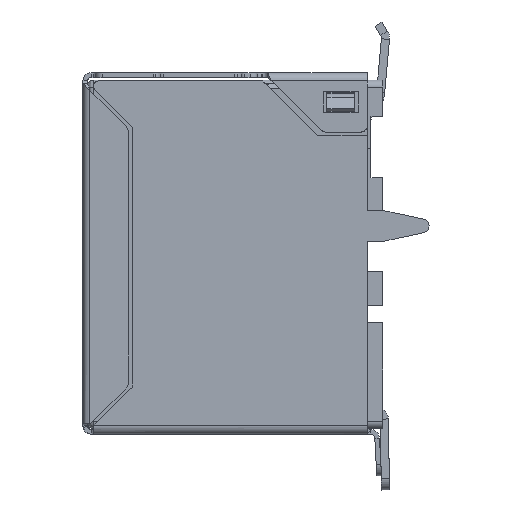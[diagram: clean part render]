
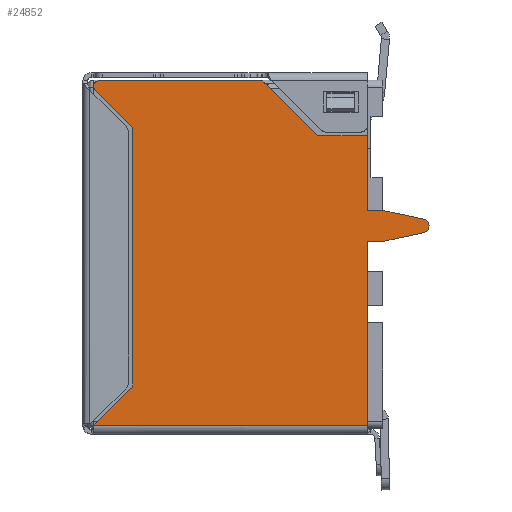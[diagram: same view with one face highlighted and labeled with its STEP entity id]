
A CAD part, left-side view. The second image highlights one B-rep face of the part: STEP entity #24852.
In plain terms, the highlighted planar face has unit normal (-1, 0, 0).
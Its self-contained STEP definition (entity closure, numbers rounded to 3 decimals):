
#4529=DIRECTION('',(0.,1.,0.));
#4530=VECTOR('',#4529,7.088);
#4531=CARTESIAN_POINT('',(-7.925,-7.55,
14.96));
#4532=LINE('',#4531,#4530);
#4537=DIRECTION('',(0.,0.,-1.));
#4538=VECTOR('',#4537,3.24);
#4539=CARTESIAN_POINT('',(-7.925,-12.05,12.61));
#4540=LINE('',#4539,#4538);
#4541=DIRECTION('',(0.,-1.,0.));
#4542=VECTOR('',#4541,0.75);
#4543=CARTESIAN_POINT('',(-7.925,-12.05,9.37));
#4544=LINE('',#4543,#4542);
#4545=DIRECTION('',(0.,-0.978,-0.21));
#4546=VECTOR('',#4545,1.701);
#4547=CARTESIAN_POINT('',(-7.925,-12.8,9.37));
#4548=LINE('',#4547,#4546);
#4549=CARTESIAN_POINT('',(-7.925,-14.4,8.72));
#4550=DIRECTION('',(1.,0.,0.));
#4551=DIRECTION('',(0.,-0.21,0.978));
#4552=AXIS2_PLACEMENT_3D('',#4549,#4550,#4551);
#4554=DIRECTION('',(0.,0.978,-0.21));
#4555=VECTOR('',#4554,1.701);
#4556=CARTESIAN_POINT('',(-7.925,-14.463,8.427));
#4557=LINE('',#4556,#4555);
#4558=DIRECTION('',(0.,1.,0.));
#4559=VECTOR('',#4558,0.75);
#4560=CARTESIAN_POINT('',(-7.925,-12.8,8.07));
#4561=LINE('',#4560,#4559);
#4562=DIRECTION('',(0.,0.,-1.));
#4563=VECTOR('',#4562,7.96);
#4564=CARTESIAN_POINT('',(-7.925,-12.05,8.07));
#4565=LINE('',#4564,#4563);
#4566=CARTESIAN_POINT('',(-7.925,-0.45,0.007));
#4567=DIRECTION('',(1.,0.,0.));
#4568=DIRECTION('',(0.,0.858,0.514));
#4569=AXIS2_PLACEMENT_3D('',#4566,#4567,#4568);
#4571=DIRECTION('',(0.,-0.707,0.707));
#4572=VECTOR('',#4571,2.197);
#4573=CARTESIAN_POINT('',(-7.925,-0.309,0.149));
#4574=LINE('',#4573,#4572);
#4575=CARTESIAN_POINT('',(-7.925,-1.65,1.914));
#4576=DIRECTION('',(-1.,0.,0.));
#4577=DIRECTION('',(0.,-0.707,-0.707));
#4578=AXIS2_PLACEMENT_3D('',#4575,#4576,#4577);
#4580=CARTESIAN_POINT('',(-7.925,-1.65,12.836));
#4581=DIRECTION('',(-1.,0.,0.));
#4582=DIRECTION('',(0.,-1.,0.));
#4583=AXIS2_PLACEMENT_3D('',#4580,#4581,#4582);
#4585=DIRECTION('',(0.,0.707,0.707));
#4586=VECTOR('',#4585,2.192);
#4587=CARTESIAN_POINT('',(-7.925,-1.862,13.048));
#4588=LINE('',#4587,#4586);
#4589=CARTESIAN_POINT('',(-7.925,-0.462,14.748));
#4590=DIRECTION('',(1.,0.,0.));
#4591=DIRECTION('',(0.,0.707,-0.707));
#4592=AXIS2_PLACEMENT_3D('',#4589,#4590,#4591);
#4594=DIRECTION('',(0.,-0.707,-0.707));
#4595=VECTOR('',#4594,3.323);
#4596=CARTESIAN_POINT('',(-7.925,-7.55,
14.96));
#4597=LINE('',#4596,#4595);
#4598=DIRECTION('',(0.,-1.,0.));
#4599=VECTOR('',#4598,2.15);
#4600=CARTESIAN_POINT('',(-7.925,-9.9,12.61));
#4601=LINE('',#4600,#4599);
#4878=DIRECTION('',(0.,0.,-1.));
#4879=VECTOR('',#4878,10.921);
#4880=CARTESIAN_POINT('',(-7.925,-1.95,12.836));
#4881=LINE('',#4880,#4879);
#4920=DIRECTION('',(0.,-1.,0.));
#4921=VECTOR('',#4920,11.772);
#4922=CARTESIAN_POINT('',(-7.925,-0.278,0.11));
#4923=LINE('',#4922,#4921);
#15833=CARTESIAN_POINT('',(-7.925,-12.05,0.11));
#15834=VERTEX_POINT('',#15833);
#15888=CARTESIAN_POINT('',(-7.925,-12.05,12.61));
#15889=VERTEX_POINT('',#15888);
#15890=CARTESIAN_POINT('',(-7.925,-9.9,12.61));
#15891=VERTEX_POINT('',#15890);
#15892=CARTESIAN_POINT('',(-7.925,-0.278,0.11));
#15893=CARTESIAN_POINT('',(-7.925,-0.309,0.149));
#15894=VERTEX_POINT('',#15892);
#15895=VERTEX_POINT('',#15893);
#15896=CARTESIAN_POINT('',(-7.925,-1.862,1.702));
#15897=VERTEX_POINT('',#15896);
#15898=CARTESIAN_POINT('',(-7.925,-1.95,1.914));
#15899=VERTEX_POINT('',#15898);
#15900=CARTESIAN_POINT('',(-7.925,-1.95,12.836));
#15901=VERTEX_POINT('',#15900);
#15902=CARTESIAN_POINT('',(-7.925,-1.862,13.048));
#15903=VERTEX_POINT('',#15902);
#15904=CARTESIAN_POINT('',(-7.925,-0.312,14.598));
#15905=VERTEX_POINT('',#15904);
#15906=CARTESIAN_POINT('',(-7.925,-0.462,14.96));
#15907=VERTEX_POINT('',#15906);
#15908=CARTESIAN_POINT('',(-7.925,-7.55,
14.96));
#15909=VERTEX_POINT('',#15908);
#18356=CARTESIAN_POINT('',(-7.925,-14.463,8.427));
#18357=CARTESIAN_POINT('',(-7.925,-12.8,8.07));
#18358=VERTEX_POINT('',#18356);
#18359=VERTEX_POINT('',#18357);
#18360=CARTESIAN_POINT('',(-7.925,-12.8,9.37));
#18361=CARTESIAN_POINT('',(-7.925,-14.463,9.013));
#18362=VERTEX_POINT('',#18360);
#18363=VERTEX_POINT('',#18361);
#18372=CARTESIAN_POINT('',(-7.925,-12.05,8.07));
#18373=VERTEX_POINT('',#18372);
#18374=CARTESIAN_POINT('',(-7.925,-12.05,9.37));
#18375=VERTEX_POINT('',#18374);
#24814=CARTESIAN_POINT('',(-7.925,-6.15,7.535));
#24815=DIRECTION('',(1.,0.,0.));
#24816=DIRECTION('',(0.,0.,1.));
#24817=AXIS2_PLACEMENT_3D('',#24814,#24815,#24816);
#24818=PLANE('',#24817);
#24819=ORIENTED_EDGE('',*,*,#24630,.T.);
#24821=ORIENTED_EDGE('',*,*,#24820,.T.);
#24823=ORIENTED_EDGE('',*,*,#24822,.T.);
#24825=ORIENTED_EDGE('',*,*,#24824,.T.);
#24827=ORIENTED_EDGE('',*,*,#24826,.T.);
#24829=ORIENTED_EDGE('',*,*,#24828,.T.);
#24830=ORIENTED_EDGE('',*,*,#24647,.T.);
#24832=ORIENTED_EDGE('',*,*,#24831,.F.);
#24834=ORIENTED_EDGE('',*,*,#24833,.T.);
#24836=ORIENTED_EDGE('',*,*,#24835,.T.);
#24838=ORIENTED_EDGE('',*,*,#24837,.T.);
#24840=ORIENTED_EDGE('',*,*,#24839,.F.);
#24842=ORIENTED_EDGE('',*,*,#24841,.T.);
#24844=ORIENTED_EDGE('',*,*,#24843,.T.);
#24846=ORIENTED_EDGE('',*,*,#24845,.T.);
#24847=ORIENTED_EDGE('',*,*,#24804,.F.);
#24848=ORIENTED_EDGE('',*,*,#24759,.T.);
#24849=ORIENTED_EDGE('',*,*,#24664,.T.);
#24850=EDGE_LOOP('',(#24819,#24821,#24823,#24825,#24827,#24829,#24830,#24832,
#24834,#24836,#24838,#24840,#24842,#24844,#24846,#24847,#24848,#24849));
#24851=FACE_OUTER_BOUND('',#24850,.F.);
#24852=ADVANCED_FACE('',(#24851),#24818,.F.);
#4553=CIRCLE('',#4552,0.3);
#4570=CIRCLE('',#4569,0.2);
#4579=CIRCLE('',#4578,0.3);
#4584=CIRCLE('',#4583,0.3);
#4593=CIRCLE('',#4592,0.212);
#24630=EDGE_CURVE('',#15889,#18375,#4540,.T.);
#24647=EDGE_CURVE('',#18373,#15834,#4565,.T.);
#24664=EDGE_CURVE('',#15891,#15889,#4601,.T.);
#24759=EDGE_CURVE('',#15909,#15891,#4597,.T.);
#24804=EDGE_CURVE('',#15909,#15907,#4532,.T.);
#24820=EDGE_CURVE('',#18375,#18362,#4544,.T.);
#24822=EDGE_CURVE('',#18362,#18363,#4548,.T.);
#24824=EDGE_CURVE('',#18363,#18358,#4553,.T.);
#24826=EDGE_CURVE('',#18358,#18359,#4557,.T.);
#24828=EDGE_CURVE('',#18359,#18373,#4561,.T.);
#24831=EDGE_CURVE('',#15894,#15834,#4923,.T.);
#24833=EDGE_CURVE('',#15894,#15895,#4570,.T.);
#24835=EDGE_CURVE('',#15895,#15897,#4574,.T.);
#24837=EDGE_CURVE('',#15897,#15899,#4579,.T.);
#24839=EDGE_CURVE('',#15901,#15899,#4881,.T.);
#24841=EDGE_CURVE('',#15901,#15903,#4584,.T.);
#24843=EDGE_CURVE('',#15903,#15905,#4588,.T.);
#24845=EDGE_CURVE('',#15905,#15907,#4593,.T.);
